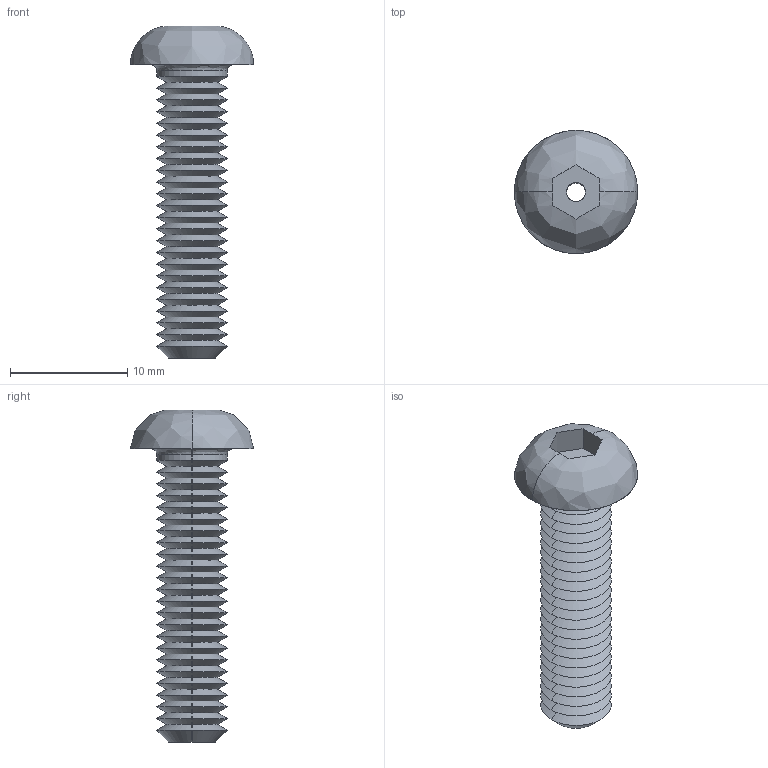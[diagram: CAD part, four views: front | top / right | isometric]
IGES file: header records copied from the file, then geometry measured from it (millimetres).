
Start section: SolidWorks IGES file using analytic representation for surfaces
Global section: file name: C:\Users\liam_\OneDrive\Documents\WORK\Work for WixRoyd\Job Files\J-00019 - Matt Davis CAD Checking\04. CAD Drawings\automotion20190605\P0094_v2\P0094_v2_20190712_IGES\P0094.060-025-A2.igs; native system: SolidWorks 2017; preprocessor: SolidWorks 2017; author: liam_; date: 190712.175602; units: millimetre
Bounding box: 10.5 x 10.5 x 28.3 mm (x, y, z)
Surface area: 1150.3 mm2 (no closed solid volume)
Topology: 0 solids, 0 shells, 111 faces, 606 edges, 606 vertices
Faces by surface type: revolution 98, bspline 13
